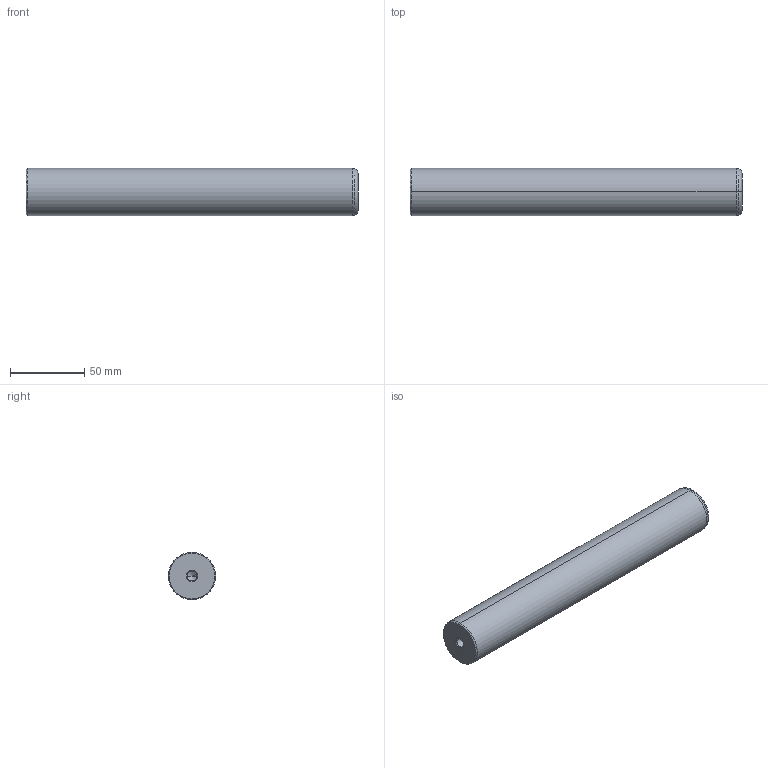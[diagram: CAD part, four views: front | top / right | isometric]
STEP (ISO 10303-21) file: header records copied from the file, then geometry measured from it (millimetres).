
FILE_DESCRIPTION(('CATIA V5 STEP Exchange'),'2;1');
FILE_NAME('C:\Users\Utente\Desktop\IO LAVORO\3D X SITO CF\X SITO\720\720-32x224.stp','2021-01-01T12:16:51+00:00',('none'),('none'),'CATIA Version 5 Release 20 GA (IN-10)','CATIA V5 STEP AP203','none');
FILE_SCHEMA(('CONFIG_CONTROL_DESIGN'));
Length unit declared in the file: millimetre
Products named in the file (1): 720-32x224
Bounding box: 224 x 32 x 32 mm (x, y, z)
Volume: 178099 mm3; surface area: 24911.7 mm2
Topology: 1 solids, 1 shells, 22 faces, 56 edges, 34 vertices
Faces by surface type: cone 12, cylinder 6, plane 2, torus 2
Entity records: 755 total; most frequent: CARTESIAN_POINT 216, ORIENTED_EDGE 104, DIRECTION 89, EDGE_CURVE 52, AXIS2_PLACEMENT_3D 50, VERTEX_POINT 34, CIRCLE 27, EDGE_LOOP 24
